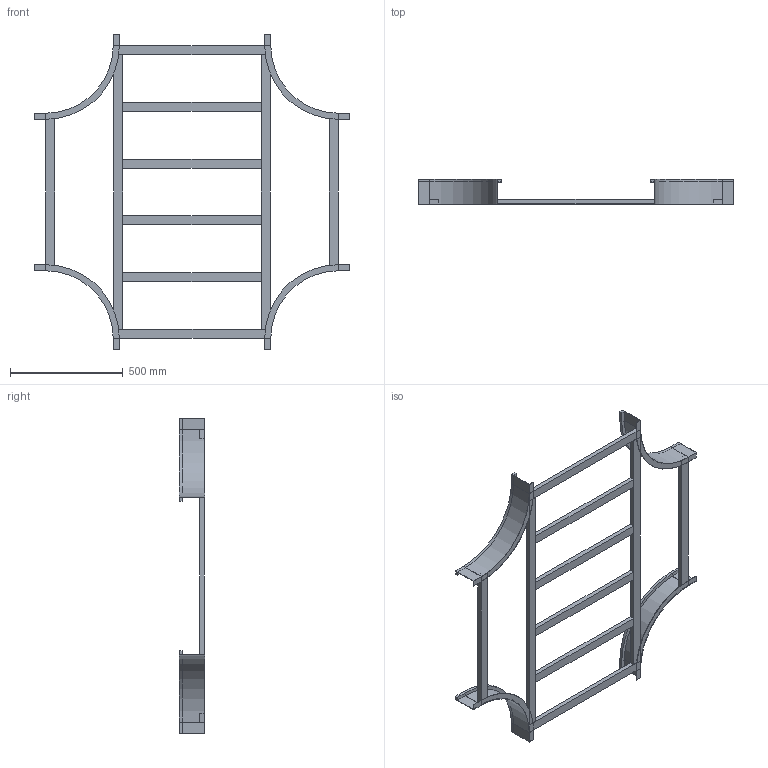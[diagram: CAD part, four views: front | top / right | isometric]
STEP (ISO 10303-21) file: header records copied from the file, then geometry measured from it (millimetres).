
FILE_DESCRIPTION (( 'STEP AP214' ), '1' );
FILE_NAME ('B2_17B3J700.step', '2025-02-21T15:57:29', ( '' ), ( '' ), 'SwSTEP 2.0', 'SolidWorks 2023', '' );
FILE_SCHEMA (( 'AUTOMOTIVE_DESIGN' ));
Length unit declared in the file: millimetre
Products named in the file (5): TRAVERSINO_700; B2_LONGH.INTERNO 90°_H112.5_R300; B2_17B3J700; TRAVERSINO_INTERMEDIO_R300+700; B2_TRAVERSINO_LONG._R300+700
Assembly tree (14 placements, depth 2):
  B2_17B3J700
    B2_LONGH.INTERNO 90°_H112.5_R300  x4
    TRAVERSINO_700  x4
    B2_TRAVERSINO_LONG._R300+700  x2
    TRAVERSINO_INTERMEDIO_R300+700  x4
Bounding box: 1400 x 112.5 x 1400 mm (x, y, z)
Volume: 7307527 mm3; surface area: 1669604.5 mm2
Topology: 14 solids, 14 shells, 164 faces, 344 edges, 208 vertices
Faces by surface type: plane 148, cylinder 16
Entity records: 1370 total; most frequent: DIRECTION 222, CARTESIAN_POINT 209, ORIENTED_EDGE 184, EDGE_CURVE 92, LINE 84, VECTOR 84, AXIS2_PLACEMENT_3D 69, VERTEX_POINT 56
